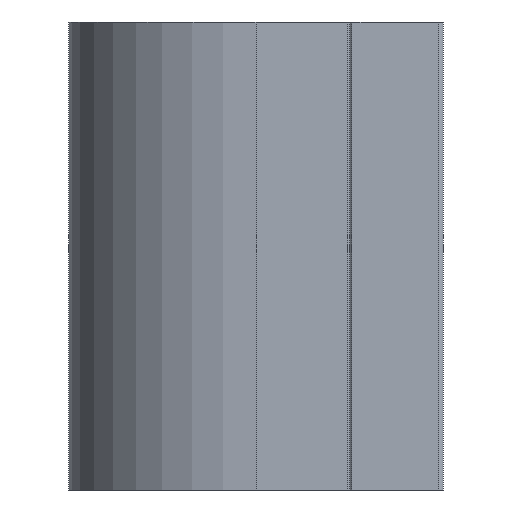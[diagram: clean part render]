
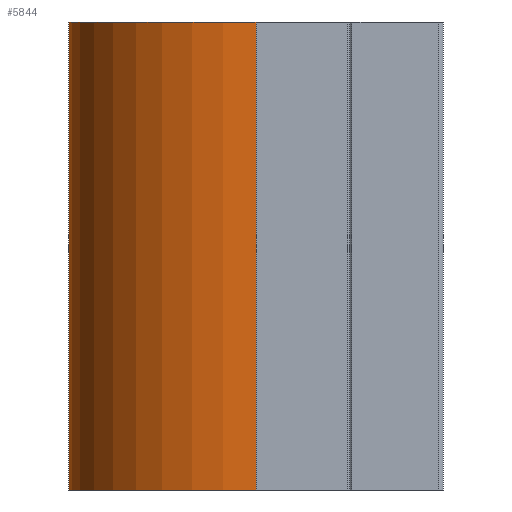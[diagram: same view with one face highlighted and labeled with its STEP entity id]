
A CAD part, left-side view. The second image highlights one B-rep face of the part: STEP entity #5844.
In plain terms, the highlighted cylindrical face has radius 40 mm (diameter 80 mm), a partial arc.
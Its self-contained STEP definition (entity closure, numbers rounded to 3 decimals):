
#30 = DIRECTION ( 'NONE',  ( 1., 0., 0. ) ) ;
#78 = EDGE_CURVE ( 'NONE', #2853, #5453, #1141, .T. ) ;
#510 = ORIENTED_EDGE ( 'NONE', *, *, #3570, .F. ) ;
#674 = EDGE_CURVE ( 'NONE', #6302, #836, #4368, .T. ) ;
#808 = CARTESIAN_POINT ( 'NONE',  ( 0., 0., -50. ) ) ;
#836 = VERTEX_POINT ( 'NONE', #1879 ) ;
#1141 = CIRCLE ( 'NONE', #2007, 40. ) ;
#1306 = CARTESIAN_POINT ( 'NONE',  ( 0., 40., 50. ) ) ;
#1534 = CARTESIAN_POINT ( 'NONE',  ( 0., 0., 50. ) ) ;
#1789 = CARTESIAN_POINT ( 'NONE',  ( -40., 0., 50. ) ) ;
#1879 = CARTESIAN_POINT ( 'NONE',  ( -40., 0., 50. ) ) ;
#1913 = LINE ( 'NONE', #2451, #2491 ) ;
#2007 = AXIS2_PLACEMENT_3D ( 'NONE', #808, #4462, #4498 ) ;
#2080 = CARTESIAN_POINT ( 'NONE',  ( 0., 0., 50. ) ) ;
#2351 = DIRECTION ( 'NONE',  ( 0., 0., -1. ) ) ;
#2451 = CARTESIAN_POINT ( 'NONE',  ( 0., 40., 50. ) ) ;
#2491 = VECTOR ( 'NONE', #2351, 1000. ) ;
#2853 = VERTEX_POINT ( 'NONE', #5072 ) ;
#3230 = DIRECTION ( 'NONE',  ( 0., 0., -1. ) ) ;
#3251 = AXIS2_PLACEMENT_3D ( 'NONE', #1534, #6636, #3610 ) ;
#3570 = EDGE_CURVE ( 'NONE', #836, #5453, #6352, .T. ) ;
#3610 = DIRECTION ( 'NONE',  ( -1., 0., 0. ) ) ;
#3971 = ORIENTED_EDGE ( 'NONE', *, *, #4263, .T. ) ;
#4091 = FACE_OUTER_BOUND ( 'NONE', #6535, .T. ) ;
#4263 = EDGE_CURVE ( 'NONE', #6302, #2853, #1913, .T. ) ;
#4368 = CIRCLE ( 'NONE', #4483, 40. ) ;
#4462 = DIRECTION ( 'NONE',  ( 0., 0., 1. ) ) ;
#4483 = AXIS2_PLACEMENT_3D ( 'NONE', #2080, #4654, #30 ) ;
#4498 = DIRECTION ( 'NONE',  ( 1., 0., 0. ) ) ;
#4546 = ORIENTED_EDGE ( 'NONE', *, *, #674, .F. ) ;
#4654 = DIRECTION ( 'NONE',  ( 0., 0., 1. ) ) ;
#5072 = CARTESIAN_POINT ( 'NONE',  ( 0., 40., -50. ) ) ;
#5453 = VERTEX_POINT ( 'NONE', #6190 ) ;
#5844 = ADVANCED_FACE ( 'NONE', ( #4091 ), #6157, .T. ) ;
#6133 = VECTOR ( 'NONE', #3230, 1000. ) ;
#6157 = CYLINDRICAL_SURFACE ( 'NONE', #3251, 40. ) ;
#6190 = CARTESIAN_POINT ( 'NONE',  ( -40., 0., -50. ) ) ;
#6215 = ORIENTED_EDGE ( 'NONE', *, *, #78, .T. ) ;
#6302 = VERTEX_POINT ( 'NONE', #1306 ) ;
#6352 = LINE ( 'NONE', #1789, #6133 ) ;
#6535 = EDGE_LOOP ( 'NONE', ( #6215, #510, #4546, #3971 ) ) ;
#6636 = DIRECTION ( 'NONE',  ( 0., 0., -1. ) ) ;
